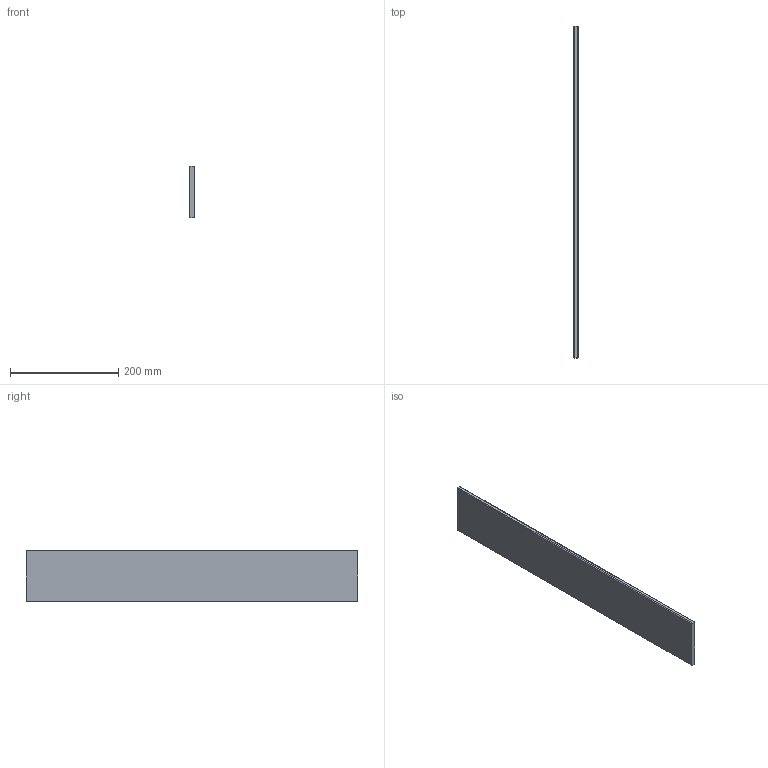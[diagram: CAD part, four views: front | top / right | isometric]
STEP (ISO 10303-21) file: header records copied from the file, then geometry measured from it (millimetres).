
FILE_DESCRIPTION (( 'STEP AP214' ), '1' );
FILE_NAME ('Einschubelement_Crystal_NL-650.step', '2010-10-06T11:41:40', ( 'grass' ), ( '' ), 'SwSTEP 2.0', 'SolidWorks 2010', '' );
FILE_SCHEMA (( 'AUTOMOTIVE_DESIGN' ));
Length unit declared in the file: millimetre
Products named in the file (1): Einschubelement_Crystal_NL-650
Bounding box: 7.8 x 613 x 95.8 mm (x, y, z)
Volume: 456711 mm3; surface area: 126819.8 mm2
Topology: 1 solids, 1 shells, 10 faces, 24 edges, 16 vertices
Faces by surface type: plane 6, cylinder 4
Entity records: 330 total; most frequent: DIRECTION 54, CARTESIAN_POINT 51, ORIENTED_EDGE 48, EDGE_CURVE 24, AXIS2_PLACEMENT_3D 19, LINE 16, VECTOR 16, VERTEX_POINT 16
